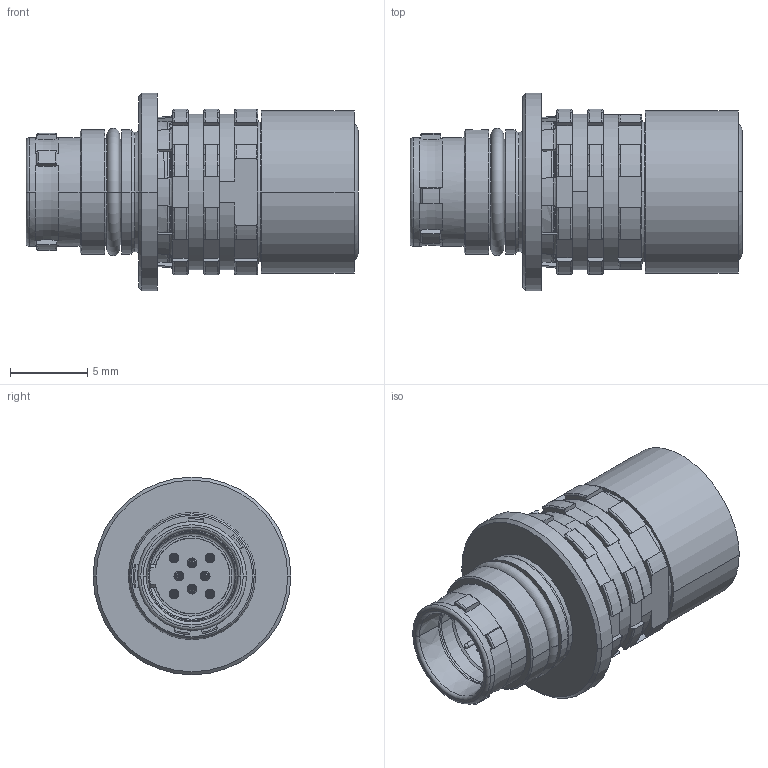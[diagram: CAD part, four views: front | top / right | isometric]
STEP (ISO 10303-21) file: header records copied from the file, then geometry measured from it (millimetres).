
FILE_DESCRIPTION((''),'2;1');
FILE_NAME('TEMP_SW_STEP_MONOBLOCK','2018-10-01T',('DTurza'),(''),'PRO/ENGINEER BY PARAMETRIC TECHNOLOGY CORPORATION, 2016360','PRO/ENGINEER BY PARAMETRIC TECHNOLOGY CORPORATION, 2016360','');
FILE_SCHEMA(('AUTOMOTIVE_DESIGN { 1 0 10303 214 1 1 1 1 }'));
Products named in the file (1): TEMP_SW_STEP_MONOBLOCK
Bounding box: 21.5 x 12.8 x 12.8 mm (x, y, z)
Volume: 839.8 mm3; surface area: 2415.9 mm2
Topology: 1 solids, 1 shells, 1143 faces, 3051 edges, 1911 vertices
Faces by surface type: plane 526, cylinder 234, torus 166, cone 144, bspline 57, sphere 16
Entity records: 58034 total; most frequent: CARTESIAN_POINT 21014, ORIENTED_EDGE 6038, DIRECTION 5812, EDGE_CURVE 3019, AXIS2_PLACEMENT_3D 2075, VERTEX_POINT 1911, VECTOR 1662, LINE 1662
